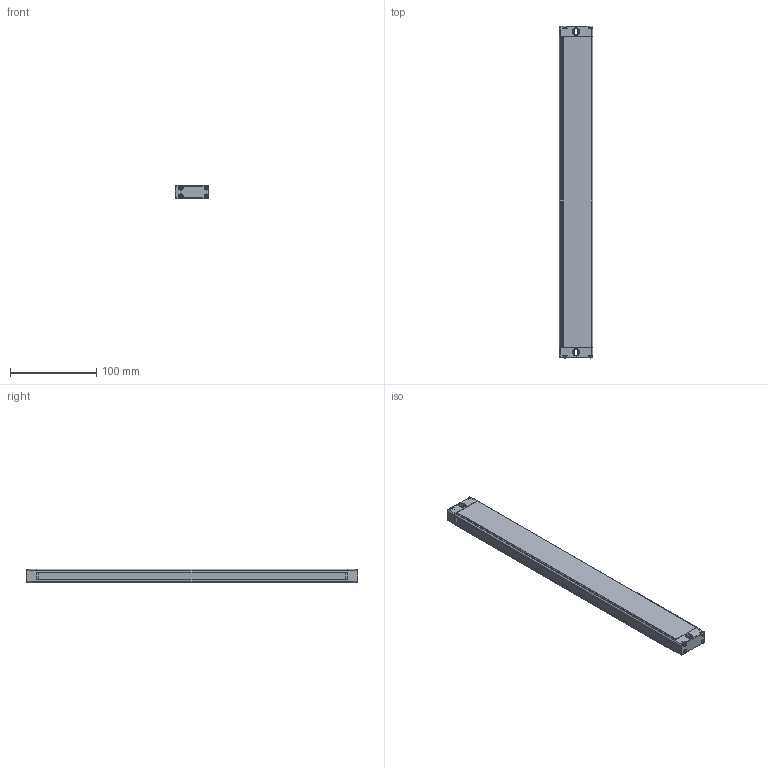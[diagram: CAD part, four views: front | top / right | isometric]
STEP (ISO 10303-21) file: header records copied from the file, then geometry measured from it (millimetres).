
FILE_DESCRIPTION((''),'2;1');
FILE_NAME('EB15--3610_ASM','2021-07-22T10:00:20',('18720616900'),(''),'CREO PARAMETRIC BY PTC INC, 2019010','CREO PARAMETRIC BY PTC INC, 2019010','');
FILE_SCHEMA(('CONFIG_CONTROL_DESIGN'));
Length unit declared in the file: millimetre
Products named in the file (6): EB15-00; EB15-000; EB15-0003; EB15-0004; ST-3-12; EB15--3610_ASM
Assembly tree (12 placements, depth 2):
  EB15--3610_ASM
    EB15-00
    EB15-000
    EB15-0003
    EB15-0004
    ST-3-12  x8
Bounding box: 39.15 x 385 x 15.8 mm (x, y, z)
Volume: 230897.9 mm3; surface area: 59647.8 mm2
Topology: 12 solids, 12 shells, 827 faces, 2188 edges, 1368 vertices
Faces by surface type: plane 242, bspline 188, cone 176, cylinder 165, torus 40, sphere 16
Entity records: 16044 total; most frequent: CARTESIAN_POINT 7660, ORIENTED_EDGE 1804, DIRECTION 1603, EDGE_CURVE 902, AXIS2_PLACEMENT_3D 577, VERTEX_POINT 563, VECTOR 449, LINE 449
